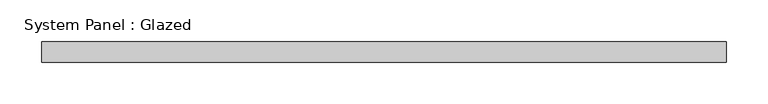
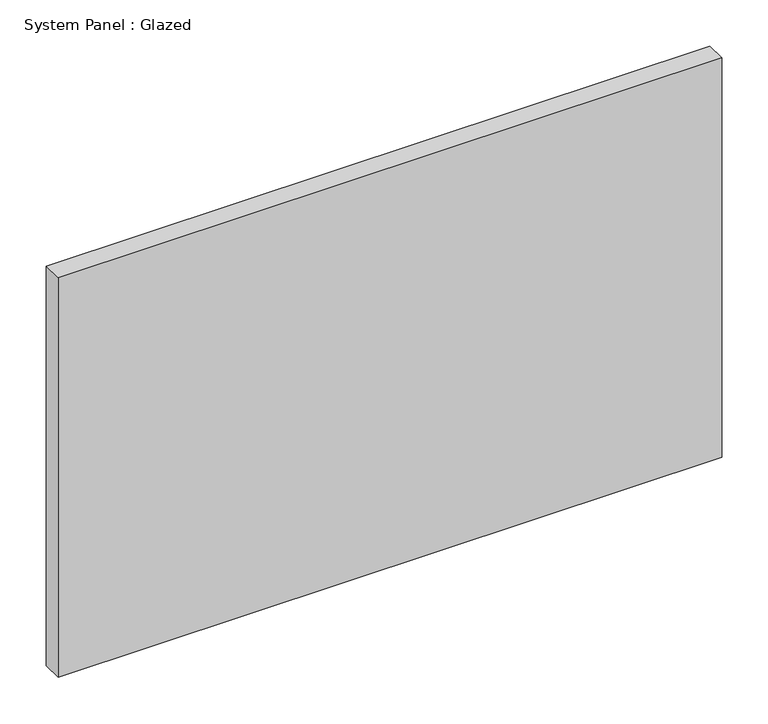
"""IFC4 building model written with IfcOpenShell, lengths in millimetres: plate geometry, System Panel : Glazed."""

from ifc_helpers import new_model, si_unit, origin, origin_with_axes, place, context, project, spatial, polyline, outline, extrude, source, transform, mapped, element, save


def system_panel_glazed_a63d9171(model_context):
    return source(origin(), model_context, "Body", "SweptSolid", [
        extrude(outline(polyline([(412.5000001, 24.5), (-412.5000001, 24.5), (-412.5000001, 49.5), (412.5000001, 49.5), (412.5000001, 24.5)])), origin_with_axes(), (0.0, 0.0, 1.0), 525.0),
    ])


if __name__ == "__main__":
    model = new_model("IFC4")
    model_context = context("Model", 3, world=origin())
    ifc_project = project(units=[si_unit("LENGTHUNIT", "METRE", prefix="MILLI")], contexts=[model_context])
    site = spatial("IfcSite", under=ifc_project)
    building = spatial("IfcBuilding", under=site)
    placement = place(None, origin())
    system_panel_glazed_shape = system_panel_glazed_a63d9171(model_context)
    element("IfcPlate", 1, ObjectType="System Panel : Glazed", at=placement, inside=building, context=model_context, shape_type="MappedRepresentation", body=[
        mapped(system_panel_glazed_shape, transform((0.0, 0.0, 0.0), x_axis=(1.0, 0.0, 0.0), y_axis=(0.0, 1.0, 0.0), z_axis=(0.0, 0.0, 1.0))),
    ])
    save(model, "model.ifc")
